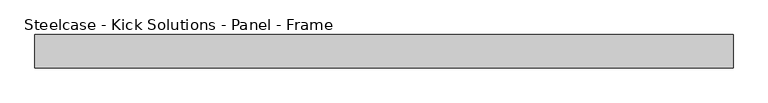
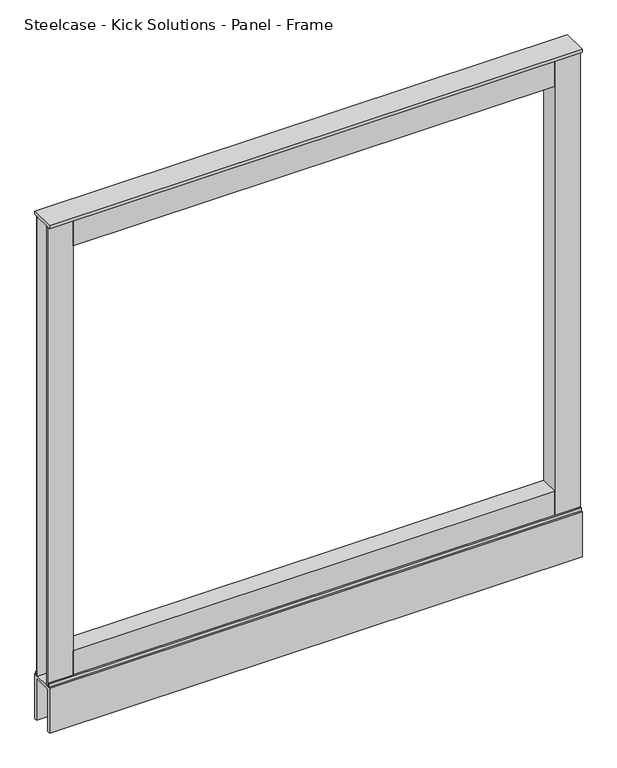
"""IFC4 building model written with IfcOpenShell, lengths in millimetres: furniture geometry, Steelcase - Kick Solutions - Panel - Frame : 42H x 42W."""

from ifc_helpers import new_model, si_unit, frame, origin, place, context, project, spatial, polyline, outline, extrude, source, transform, mapped, element, save


def steelcase_kick_solutions_panel_frame_1a20c1e0(model_context):
    return source(origin(), model_context, "Body", "SweptSolid", [
        extrude(outline(polyline([(50.8006646, 6.3506854), (50.8006646, -31.7493123), (0.0, -31.7493123), (0.0, -29.2093123), (48.2606646, -29.2093123), (48.2606646, 3.8106854), (0.0, 3.8106854), (0.0, 6.3506854), (50.8006646, 6.3506854)])), frame((0.0, 0.0, 95.25), z_axis=(0.0, 0.0, 1.0), x_axis=(1.0, 0.0, 0.0)), (0.0, 0.0, 1.0), 971.55),
        extrude(outline(polyline([(1016.0006661, 6.3506854), (1066.8, 6.3506854), (1066.8, 3.8106854), (1018.5393354, 3.8106854), (1018.5393354, -29.2093123), (1066.8, -29.2093123), (1066.8, -31.7493123), (1016.0006661, -31.7493123), (1016.0006661, 6.3506854)])), frame((0.0, 0.0, 95.25), z_axis=(0.0, 0.0, 1.0), x_axis=(1.0, 0.0, 0.0)), (0.0, 0.0, 1.0), 971.55),
        extrude(outline(polyline([(6.3506854, 101.600003), (9.5256855, 101.600003), (9.5256855, 95.25), (8.409661, 95.25), (8.409661, 100.2902081), (6.3506854, 100.2902081), (6.3506854, 101.600003)])), frame((0.0, 0.0, 0.0), z_axis=(1.0, 0.0, 0.0), x_axis=(0.0, 1.0, 0.0)), (0.0, 0.0, 1.0), 1066.8),
        extrude(outline(polyline([(-34.9243138, 101.600003), (-31.7493123, 101.600003), (-31.7493123, 100.2902081), (-33.8479845, 100.2902081), (-33.8479845, 95.25), (-34.9243138, 95.25), (-34.9243138, 101.600003)])), frame((0.0, 0.0, 0.0), z_axis=(1.0, 0.0, 0.0), x_axis=(0.0, 1.0, 0.0)), (0.0, 0.0, 1.0), 1066.8),
        extrude(outline(polyline([(1016.0006661, -31.7493123), (50.8006646, -31.7493123), (50.8006646, 6.3506854), (1016.0006661, 6.3506854), (1016.0006661, -31.7493123)])), frame((0.0, 0.0, 1009.6500242), z_axis=(0.0, 0.0, 1.0), x_axis=(1.0, 0.0, 0.0)), (0.0, 0.0, 1.0), 57.1499758),
        extrude(outline(polyline([(1016.0006661, -31.7493123), (50.8006646, -31.7493123), (50.8006646, 6.3506854), (1016.0006661, 6.3506854), (1016.0006661, -31.7493123)])), frame((0.0, 0.0, 95.25), z_axis=(0.0, 0.0, 1.0), x_axis=(1.0, 0.0, 0.0)), (0.0, 0.0, 1.0), 57.15),
        extrude(outline(polyline([(1066.8, 12.7000004), (1066.8, -38.1000011), (0.0, -38.1000011), (0.0, 12.7000004), (1066.8, 12.7000004)])), frame((0.0, 0.0, 1066.8), z_axis=(0.0, 0.0, 1.0), x_axis=(1.0, 0.0, 0.0)), (0.0, 0.0, 1.0), 6.35),
        extrude(outline(polyline([(-38.1000011, 95.25), (12.7000004, 95.25), (12.7000004, 0.0), (6.3506854, 0.0), (6.3506854, 88.9), (-31.7493123, 88.9), (-31.7493123, 0.0), (-38.1000011, 0.0), (-38.1000011, 95.25)])), frame((0.0, 0.0, 0.0), z_axis=(1.0, 0.0, 0.0), x_axis=(0.0, 1.0, 0.0)), (0.0, 0.0, 1.0), 1066.8),
    ])


if __name__ == "__main__":
    model = new_model("IFC4")
    model_context = context("Model", 3, world=origin())
    ifc_project = project(units=[si_unit("LENGTHUNIT", "METRE", prefix="MILLI")], contexts=[model_context])
    site = spatial("IfcSite", under=ifc_project)
    building = spatial("IfcBuilding", under=site)
    placement = place(None, origin())
    steelcase_kick_solutions_panel_frame_shape = steelcase_kick_solutions_panel_frame_1a20c1e0(model_context)
    element("IfcFurniture", 1, ObjectType="Steelcase - Kick Solutions - Panel - Frame : 42H x 42W", at=placement, inside=building, context=model_context, shape_type="MappedRepresentation", body=[
        mapped(steelcase_kick_solutions_panel_frame_shape, transform((0.0, 0.0, 0.0), x_axis=(1.0, 0.0, 0.0), y_axis=(0.0, 1.0, 0.0), z_axis=(0.0, 0.0, 1.0))),
    ])
    save(model, "model.ifc")
